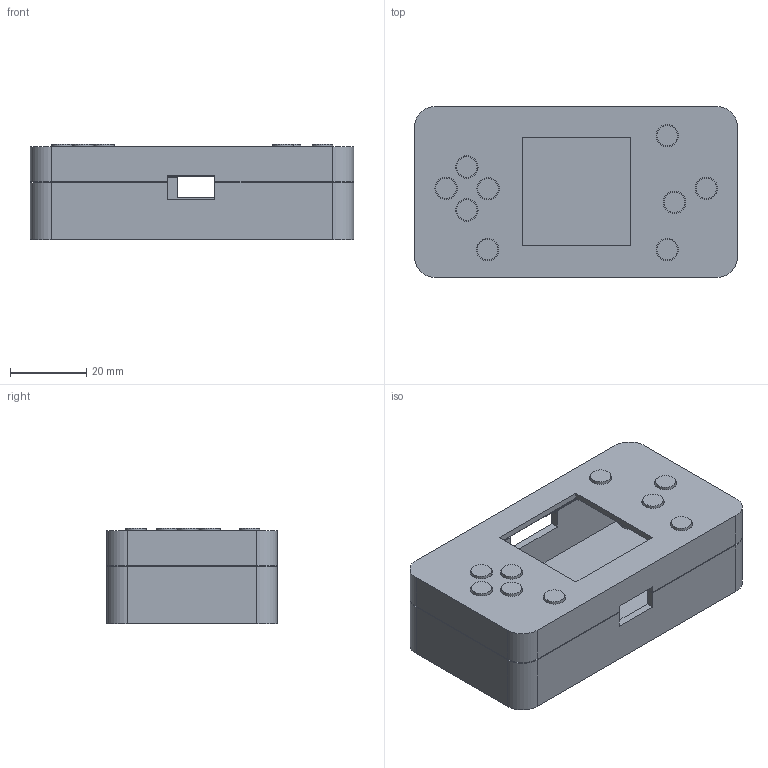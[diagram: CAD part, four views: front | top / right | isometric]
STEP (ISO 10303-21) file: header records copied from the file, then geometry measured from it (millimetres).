
FILE_DESCRIPTION(('FreeCAD Model'),'2;1');
FILE_NAME('Open CASCADE Shape Model','2026-10-15T01:26:44',('FreeCAD'),( 'FreeCAD'),'Open CASCADE STEP processor 7.8','FreeCAD','Unknown');
FILE_SCHEMA(('AUTOMOTIVE_DESIGN { 1 0 10303 214 1 1 1 1 }'));
Length unit declared in the file: millimetre
Products named in the file (1): Open CASCADE STEP translator 7.8 1
Bounding box: 85 x 45 x 25.1 mm (x, y, z)
Volume: 23938.6 mm3; surface area: 27230.1 mm2
Topology: 11 solids, 11 shells, 215 faces, 512 edges, 344 vertices
Faces by surface type: plane 131, cylinder 84
Full cylindrical faces by diameter (mm): 1.7 x4, 2.3 x4, 2.5 x9, 4.4 x4, 5.4 x9, 5.9 x9, 6 x4, 6.8 x9
Entity records: 6348 total; most frequent: DIRECTION 1136, CARTESIAN_POINT 1072, ORIENTED_EDGE 1024, EDGE_CURVE 512, AXIS2_PLACEMENT_3D 408, VERTEX_POINT 344, LINE 320, VECTOR 320
